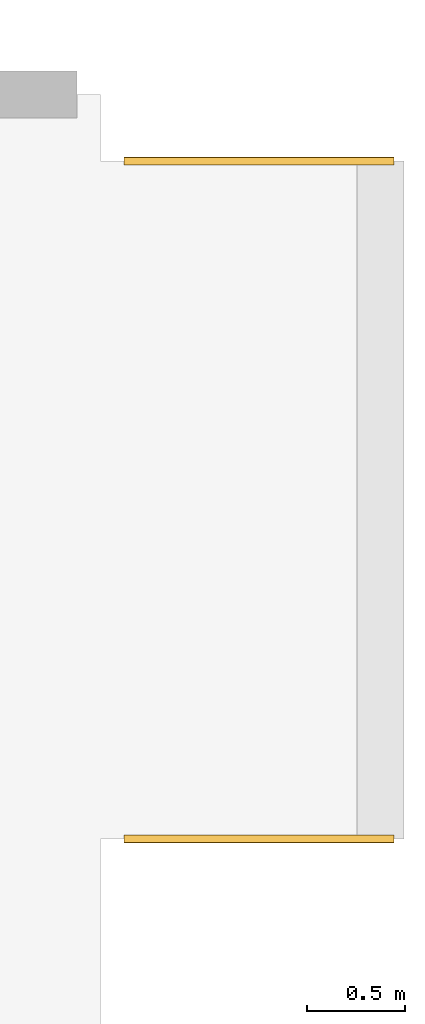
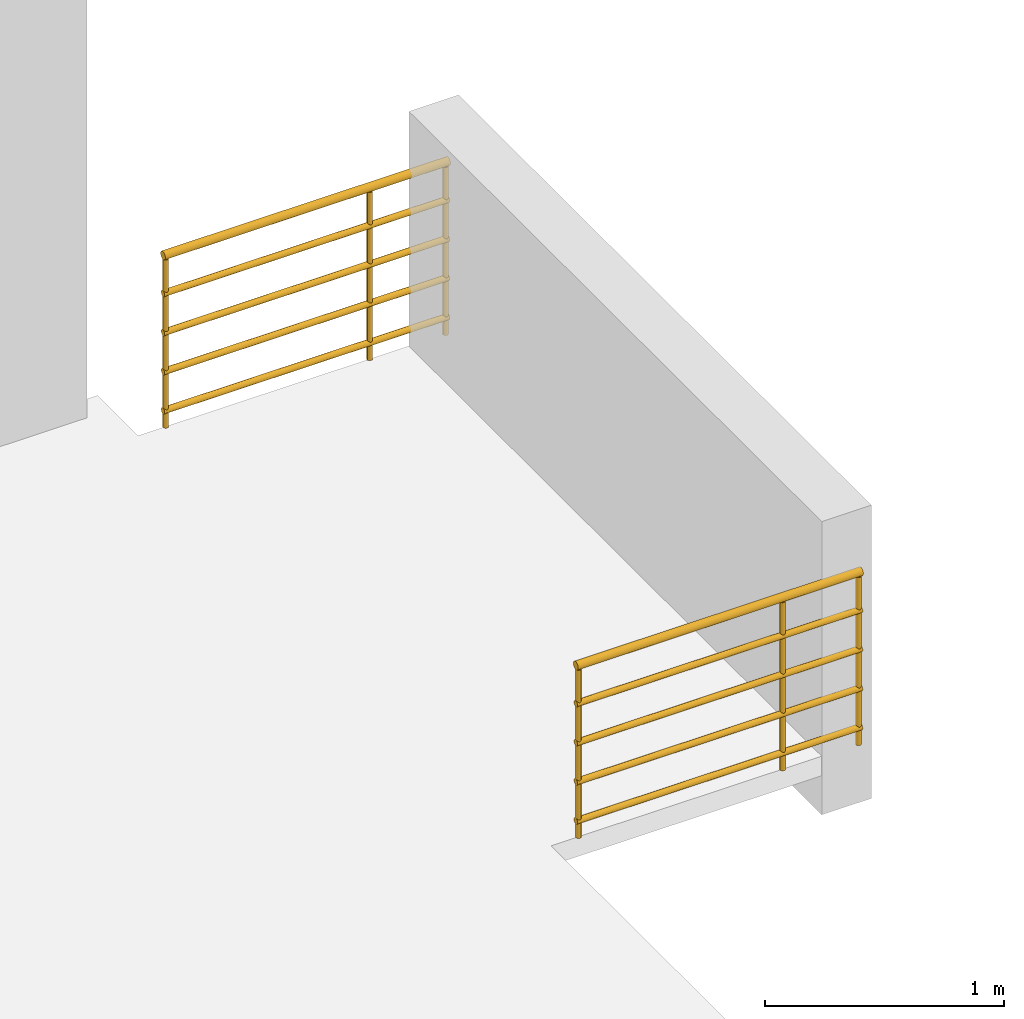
# One storey, part 31 of 33: 2 railings.
"""IFC2X3 building model written with IfcOpenShell, lengths in millimetres."""

from ifc_helpers import new_model, entity, si_unit, converted_unit, derived_unit, direction, frame, origin, origin_2d_with_axis, place, context, subcontext, project, spatial, circle, extrude, material, element, save


model = new_model("IFC2X3")

# Units and contexts
model_context = context("Model", 3, precision=0.01, world=origin(), true_north=direction((6.12303176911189e-17, 1.0)))
body_context = subcontext(model_context, "Body", "Model", "MODEL_VIEW")
ifc_project = project(units=[si_unit("LENGTHUNIT", "METRE", prefix="MILLI"), si_unit("AREAUNIT", "SQUARE_METRE"), si_unit("VOLUMEUNIT", "CUBIC_METRE"), converted_unit("PLANEANGLEUNIT", "DEGREE", entity("IfcRatioMeasure", 0.0174532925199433), si_unit("PLANEANGLEUNIT", "RADIAN"), dimensions=[0, 0, 0, 0, 0, 0, 0]), si_unit("MASSUNIT", "GRAM", prefix="KILO"), derived_unit("MASSDENSITYUNIT", [(si_unit("MASSUNIT", "GRAM", prefix="KILO"), 1), (si_unit("LENGTHUNIT", "METRE"), -3)]), si_unit("TIMEUNIT", "SECOND"), si_unit("FREQUENCYUNIT", "HERTZ"), si_unit("THERMODYNAMICTEMPERATUREUNIT", "DEGREE_CELSIUS"), derived_unit("THERMALTRANSMITTANCEUNIT", [(si_unit("MASSUNIT", "GRAM", prefix="KILO"), 1), (si_unit("THERMODYNAMICTEMPERATUREUNIT", "KELVIN"), -1), (si_unit("TIMEUNIT", "SECOND"), -3)]), derived_unit("VOLUMETRICFLOWRATEUNIT", [(si_unit("LENGTHUNIT", "METRE"), 3), (si_unit("TIMEUNIT", "SECOND"), -1)]), si_unit("ELECTRICCURRENTUNIT", "AMPERE"), si_unit("ELECTRICVOLTAGEUNIT", "VOLT"), si_unit("POWERUNIT", "WATT"), si_unit("FORCEUNIT", "NEWTON", prefix="KILO"), si_unit("ILLUMINANCEUNIT", "LUX"), si_unit("LUMINOUSFLUXUNIT", "LUMEN"), si_unit("LUMINOUSINTENSITYUNIT", "CANDELA"), derived_unit("USERDEFINED", [(si_unit("MASSUNIT", "GRAM", prefix="KILO"), -1), (si_unit("LENGTHUNIT", "METRE"), -2), (si_unit("TIMEUNIT", "SECOND"), 3), (si_unit("LUMINOUSFLUXUNIT", "LUMEN"), 1)]), derived_unit("LINEARVELOCITYUNIT", [(si_unit("LENGTHUNIT", "METRE"), 1), (si_unit("TIMEUNIT", "SECOND"), -1)]), si_unit("PRESSUREUNIT", "PASCAL"), derived_unit("USERDEFINED", [(si_unit("LENGTHUNIT", "METRE"), -2), (si_unit("MASSUNIT", "GRAM", prefix="KILO"), 1), (si_unit("TIMEUNIT", "SECOND"), -2)])], contexts=[model_context])

# Site, building, storey
site_placement = place(None, origin())
site = spatial("IfcSite", under=ifc_project, at=site_placement, Name="表面", CompositionType="ELEMENT")
building_placement = place(site_placement, origin())
building = spatial("IfcBuilding", under=site, at=building_placement, CompositionType="ELEMENT")
storey_placement = place(building_placement, frame((0.0, 0.0, 6000.0)))
storey = spatial("IfcBuildingStorey", under=building, at=storey_placement, Name="3F", CompositionType="ELEMENT", Elevation=6000.00000000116)

# Railings
ifc_material = material(Name="不锈钢")
railing_1_placement = place(storey_placement, origin())
element("IfcRailing", 1, at=railing_1_placement, inside=storey, material=ifc_material, Name="栏杆扶手:900mm 圆管", ObjectType="栏杆扶手:900mm 圆管", PredefinedType="NOTDEFINED", context=body_context, shape_type="SweptSolid", body=[
    extrude(circle(Radius=12.5, at=origin_2d_with_axis()), frame((-2510.24991264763, -12507.8459129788, 0.0), z_axis=(0.0, 0.0, 1.0), x_axis=(0.0, 1.0, 0.0)), (0.0, 0.0, 1.0), 859.999999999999),
    extrude(circle(Radius=12.5, at=origin_2d_with_axis()), frame((-2142.74991264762, -12507.8459129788, 0.0), z_axis=(0.0, 0.0, 1.0), x_axis=(0.0, 1.0, 0.0)), (0.0, 0.0, 1.0), 859.999999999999),
    extrude(circle(Radius=12.5, at=origin_2d_with_axis()), frame((-3497.74991264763, -12507.8459129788, 0.0), z_axis=(0.0, 0.0, 1.0), x_axis=(0.0, 1.0, 0.0)), (0.0, 0.0, 1.0), 859.999999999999),
    extrude(circle(Radius=20.0, at=origin_2d_with_axis()), frame((-3510.24991264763, -12507.8459129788, 880.0), z_axis=(1.0, 0.0, 0.0), x_axis=(0.0, -1.0, 0.0)), (0.0, 0.0, 1.0), 1380.00000000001),
    extrude(circle(Radius=15.0, at=origin_2d_with_axis()), frame((-3510.24991264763, -12507.8459129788, 685.0), z_axis=(1.0, 0.0, 0.0), x_axis=(0.0, -1.0, 0.0)), (0.0, 0.0, 1.0), 1380.00000000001),
    extrude(circle(Radius=15.0, at=origin_2d_with_axis()), frame((-3510.24991264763, -12507.8459129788, 485.0), z_axis=(1.0, 0.0, 0.0), x_axis=(0.0, -1.0, 0.0)), (0.0, 0.0, 1.0), 1380.00000000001),
    extrude(circle(Radius=15.0, at=origin_2d_with_axis()), frame((-3510.24991264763, -12507.8459129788, 285.0), z_axis=(1.0, 0.0, 0.0), x_axis=(0.0, -1.0, 0.0)), (0.0, 0.0, 1.0), 1380.00000000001),
    extrude(circle(Radius=15.0, at=origin_2d_with_axis()), frame((-3510.24991264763, -12507.8459129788, 85.0), z_axis=(1.0, 0.0, 0.0), x_axis=(0.0, -1.0, 0.0)), (0.0, 0.0, 1.0), 1380.00000000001),
])
railing_2_placement = place(storey_placement, origin())
element("IfcRailing", 2, at=railing_2_placement, inside=storey, material=ifc_material, Name="栏杆扶手:900mm 圆管", ObjectType="栏杆扶手:900mm 圆管", PredefinedType="NOTDEFINED", context=body_context, shape_type="SweptSolid", body=[
    extrude(circle(Radius=12.5, at=origin_2d_with_axis()), frame((-2510.24991264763, -9047.8459129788, 0.0), z_axis=(0.0, 0.0, 1.0), x_axis=(0.0, 1.0, 0.0)), (0.0, 0.0, 1.0), 859.999999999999),
    extrude(circle(Radius=12.5, at=origin_2d_with_axis()), frame((-2142.74991264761, -9047.8459129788, 0.0), z_axis=(0.0, 0.0, 1.0), x_axis=(0.0, 1.0, 0.0)), (0.0, 0.0, 1.0), 859.999999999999),
    extrude(circle(Radius=12.5, at=origin_2d_with_axis()), frame((-3497.74991264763, -9047.8459129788, 0.0), z_axis=(0.0, 0.0, 1.0), x_axis=(0.0, 1.0, 0.0)), (0.0, 0.0, 1.0), 859.999999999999),
    extrude(circle(Radius=20.0, at=origin_2d_with_axis()), frame((-3510.24991264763, -9047.8459129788, 880.0), z_axis=(1.0, 0.0, 0.0), x_axis=(0.0, -1.0, 0.0)), (0.0, 0.0, 1.0), 1380.00000000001),
    extrude(circle(Radius=15.0, at=origin_2d_with_axis()), frame((-3510.24991264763, -9047.8459129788, 685.0), z_axis=(1.0, 0.0, 0.0), x_axis=(0.0, -1.0, 0.0)), (0.0, 0.0, 1.0), 1380.00000000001),
    extrude(circle(Radius=15.0, at=origin_2d_with_axis()), frame((-3510.24991264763, -9047.8459129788, 485.0), z_axis=(1.0, 0.0, 0.0), x_axis=(0.0, -1.0, 0.0)), (0.0, 0.0, 1.0), 1380.00000000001),
    extrude(circle(Radius=15.0, at=origin_2d_with_axis()), frame((-3510.24991264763, -9047.8459129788, 285.0), z_axis=(1.0, 0.0, 0.0), x_axis=(0.0, -1.0, 0.0)), (0.0, 0.0, 1.0), 1380.00000000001),
    extrude(circle(Radius=15.0, at=origin_2d_with_axis()), frame((-3510.24991264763, -9047.8459129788, 85.0), z_axis=(1.0, 0.0, 0.0), x_axis=(0.0, -1.0, 0.0)), (0.0, 0.0, 1.0), 1380.00000000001),
])

save(model, "model.ifc")
